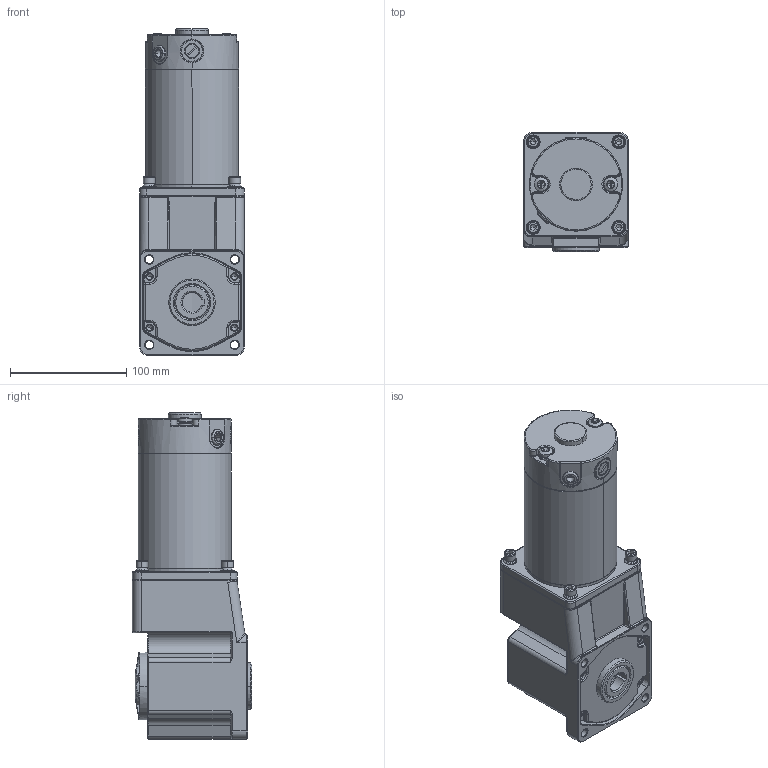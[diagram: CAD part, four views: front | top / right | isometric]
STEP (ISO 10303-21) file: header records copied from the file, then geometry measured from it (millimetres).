
FILE_DESCRIPTION (( 'STEP AP214' ), '1' );
FILE_NAME ('90-99»ú¿ÇRC.STEP', '2021-07-23T07:58:47', ( '' ), ( '' ), 'SwSTEP 2.0', 'SolidWorks 2021', '' );
FILE_SCHEMA (( 'AUTOMOTIVE_DESIGN' ));
Length unit declared in the file: millimetre
Products named in the file (9): LUDING_2; PENGDIAN_2; JIKE-99_1; TANDIAN_2; 90-60-90-120w_asm; HOUGAI-80-1_2; QIGAI_1_1; 90-99儂褲RC; 5RC_1
Assembly tree (11 placements, depth 3):
  90-99儂褲RC
    90-60-90-120w_asm
      JIKE-99_1
      QIGAI_1_1
      LUDING_2  x2
      TANDIAN_2  x2
      PENGDIAN_2  x2
      HOUGAI-80-1_2
    5RC_1
Bounding box: 90 x 102.5 x 280.5 mm (x, y, z)
Volume: 946658.7 mm3; surface area: 250712.4 mm2
Topology: 26 solids, 28 shells, 2244 faces, 5415 edges, 3203 vertices
Faces by surface type: cylinder 632, plane 535, cone 422, torus 292, bspline 283, sphere 80
Entity records: 89441 total; most frequent: CARTESIAN_POINT 41019, ORIENTED_EDGE 10394, DIRECTION 9655, EDGE_CURVE 5197, AXIS2_PLACEMENT_3D 3960, VERTEX_POINT 3108, EDGE_LOOP 2289, ADVANCED_FACE 2182
